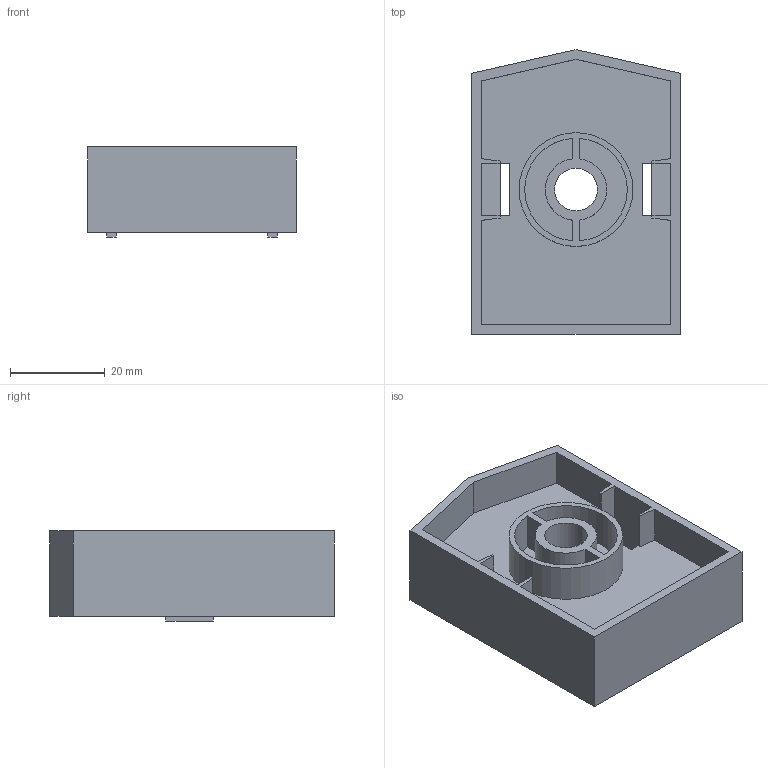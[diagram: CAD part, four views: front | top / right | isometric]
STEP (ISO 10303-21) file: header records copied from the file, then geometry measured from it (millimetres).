
FILE_DESCRIPTION (( 'STEP AP214' ), '1' );
FILE_NAME ('FGRD 18A.step', '2017-04-05T07:39:26', ( '' ), ( '' ), 'SwSTEP 2.0', 'SolidWorks 2015', '' );
FILE_SCHEMA (( 'AUTOMOTIVE_DESIGN' ));
Length unit declared in the file: millimetre
Products named in the file (1): FGRD 18A
Bounding box: 44 x 60 x 19 mm (x, y, z)
Volume: 13597.9 mm3; surface area: 15256.8 mm2
Topology: 1 solids, 1 shells, 95 faces, 263 edges, 174 vertices
Faces by surface type: plane 77, cylinder 18
Entity records: 3047 total; most frequent: CARTESIAN_POINT 533, ORIENTED_EDGE 526, DIRECTION 491, EDGE_CURVE 263, VECTOR 227, LINE 227, VERTEX_POINT 174, AXIS2_PLACEMENT_3D 132
